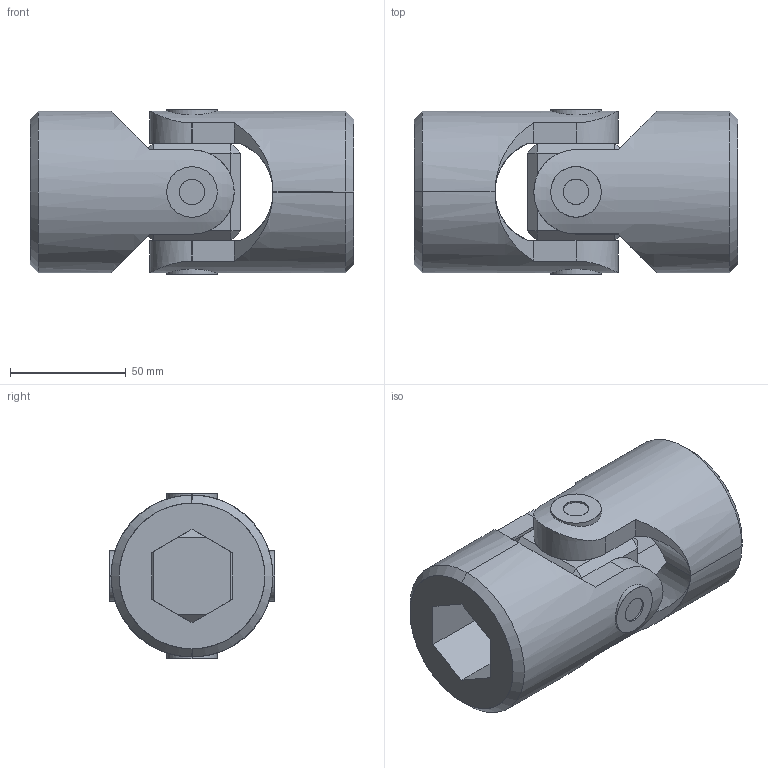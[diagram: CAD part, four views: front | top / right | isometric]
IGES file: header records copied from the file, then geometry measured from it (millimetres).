
Start section: SolidWorks IGES file using analytic representation for surfaces
Global section: file name: C:\Users\IanO\Desktop\R3690_v2\R3690_v2_20231020_IGES\R3690.035-HB.igs; native system: SolidWorks 2019; preprocessor: SolidWorks 2019; author: IanO; date: 231020.152846; units: millimetre
Bounding box: 140 x 71.4 x 71.4 mm (x, y, z)
Surface area: 76604.7 mm2 (no closed solid volume)
Topology: 0 solids, 0 shells, 112 faces, 2328 edges, 2328 vertices
Faces by surface type: bspline 68, revolution 44
